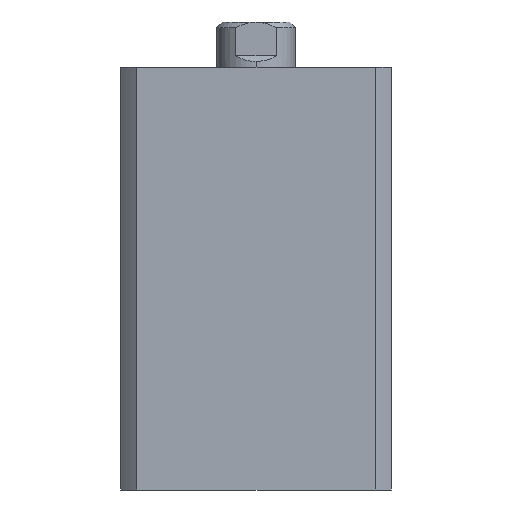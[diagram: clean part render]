
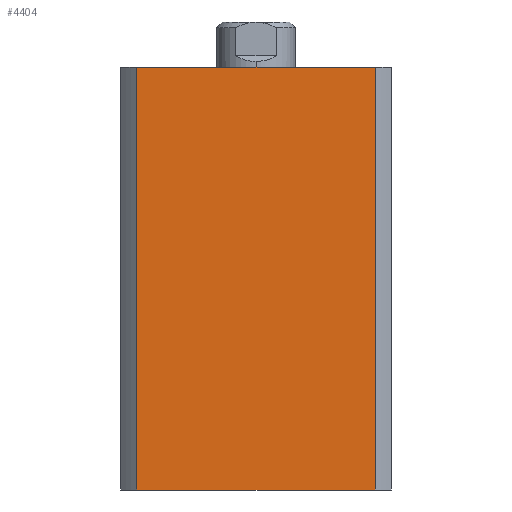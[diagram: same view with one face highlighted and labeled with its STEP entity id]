
A CAD part, left-side view. The second image highlights one B-rep face of the part: STEP entity #4404.
In plain terms, the highlighted planar face has unit normal (-1, 0, 0).
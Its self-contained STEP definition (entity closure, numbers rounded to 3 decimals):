
#212 = LINE ( 'NONE', #3732, #222 ) ;
#218 = LINE ( 'NONE', #3738, #220 ) ;
#219 = LINE ( 'NONE', #3733, #224 ) ;
#220 = VECTOR ( 'NONE', #3737, 1000. ) ;
#222 = VECTOR ( 'NONE', #3727, 1000. ) ;
#224 = VECTOR ( 'NONE', #3725, 1000. ) ;
#364 = LINE ( 'NONE', #2239, #366 ) ;
#366 = VECTOR ( 'NONE', #2255, 1000. ) ;
#749 = FACE_OUTER_BOUND ( 'NONE', #4677, .T. ) ;
#1139 = CARTESIAN_POINT ( 'NONE',  ( -24., 0., 75. ) ) ;
#1144 = PLANE ( 'NONE',  #4075 ) ;
#1147 = DIRECTION ( 'NONE',  ( 1., 0., 0. ) ) ;
#1148 = DIRECTION ( 'NONE',  ( 0., 0., -1. ) ) ;
#1316 = CARTESIAN_POINT ( 'NONE',  ( -24., -21.166, 75. ) ) ;
#1888 = CARTESIAN_POINT ( 'NONE',  ( -24., 21.166, 0. ) ) ;
#1930 = CARTESIAN_POINT ( 'NONE',  ( -24., -21.166, 0. ) ) ;
#1970 = CARTESIAN_POINT ( 'NONE',  ( -24., 21.166, 75. ) ) ;
#2239 = CARTESIAN_POINT ( 'NONE',  ( -24., 0., 75. ) ) ;
#2255 = DIRECTION ( 'NONE',  ( 0., -1., 0. ) ) ;
#3113 = ORIENTED_EDGE ( 'NONE', *, *, #3331, .T. ) ;
#3114 = ORIENTED_EDGE ( 'NONE', *, *, #3332, .F. ) ;
#3115 = ORIENTED_EDGE ( 'NONE', *, *, #3437, .F. ) ;
#3116 = ORIENTED_EDGE ( 'NONE', *, *, #3333, .T. ) ;
#3331 = EDGE_CURVE ( 'NONE', #4780, #4833, #218, .T. ) ;
#3332 = EDGE_CURVE ( 'NONE', #4586, #4833, #212, .T. ) ;
#3333 = EDGE_CURVE ( 'NONE', #4985, #4780, #219, .T. ) ;
#3437 = EDGE_CURVE ( 'NONE', #4985, #4586, #364, .T. ) ;
#3725 = DIRECTION ( 'NONE',  ( 0., 0., -1. ) ) ;
#3727 = DIRECTION ( 'NONE',  ( 0., 0., -1. ) ) ;
#3732 = CARTESIAN_POINT ( 'NONE',  ( -24., -21.166, 75. ) ) ;
#3733 = CARTESIAN_POINT ( 'NONE',  ( -24., 21.166, 75. ) ) ;
#3737 = DIRECTION ( 'NONE',  ( 0., -1., 0. ) ) ;
#3738 = CARTESIAN_POINT ( 'NONE',  ( -24., 0., 0. ) ) ;
#4075 = AXIS2_PLACEMENT_3D ( 'NONE', #1139, #1147, #1148 ) ;
#4404 = ADVANCED_FACE ( 'NONE', ( #749 ), #1144, .F. ) ;
#4586 = VERTEX_POINT ( 'NONE', #1316 ) ;
#4677 = EDGE_LOOP ( 'NONE', ( #3113, #3114, #3115, #3116 ) ) ;
#4780 = VERTEX_POINT ( 'NONE', #1888 ) ;
#4833 = VERTEX_POINT ( 'NONE', #1930 ) ;
#4985 = VERTEX_POINT ( 'NONE', #1970 ) ;
